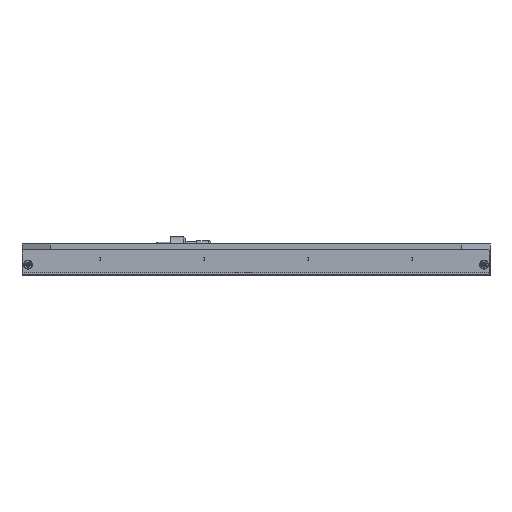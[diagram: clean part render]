
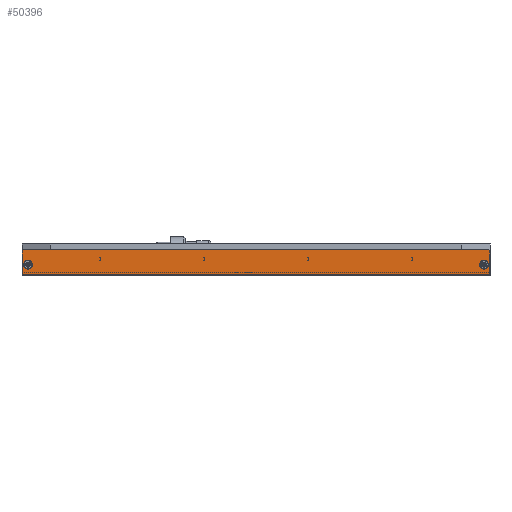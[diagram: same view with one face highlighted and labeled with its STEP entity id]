
A CAD part, front view. The second image highlights one B-rep face of the part: STEP entity #50396.
In plain terms, the highlighted planar face has unit normal (0, -1, 0).
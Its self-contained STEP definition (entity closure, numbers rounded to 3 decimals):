
#6141=DIRECTION('',(-1.,0.,0.));
#6142=VECTOR('',#6141,314.6);
#6143=CARTESIAN_POINT('',(157.3,-207.5,0.));
#6144=LINE('',#6143,#6142);
#17585=DIRECTION('',(0.,0.,-1.));
#17586=VECTOR('',#17585,16.8);
#17587=CARTESIAN_POINT('',(157.3,-207.5,0.));
#17588=LINE('',#17587,#17586);
#17589=CARTESIAN_POINT('',(-153.5,-207.5,-10.));
#17590=DIRECTION('',(0.,1.,0.));
#17591=DIRECTION('',(0.,0.,1.));
#17592=AXIS2_PLACEMENT_3D('',#17589,#17590,#17591);
#17594=CARTESIAN_POINT('',(-153.5,-207.5,-10.));
#17595=DIRECTION('',(0.,1.,0.));
#17596=DIRECTION('',(0.,0.,-1.));
#17597=AXIS2_PLACEMENT_3D('',#17594,#17595,#17596);
#17599=CARTESIAN_POINT('',(153.5,-207.5,-10.));
#17600=DIRECTION('',(0.,1.,0.));
#17601=DIRECTION('',(0.,0.,-1.));
#17602=AXIS2_PLACEMENT_3D('',#17599,#17600,#17601);
#17604=CARTESIAN_POINT('',(153.5,-207.5,-10.));
#17605=DIRECTION('',(0.,1.,0.));
#17606=DIRECTION('',(0.,0.,1.));
#17607=AXIS2_PLACEMENT_3D('',#17604,#17605,#17606);
#17609=DIRECTION('',(1.,0.,0.));
#17610=VECTOR('',#17609,314.6);
#17611=CARTESIAN_POINT('',(-157.3,-207.5,-16.8));
#17612=LINE('',#17611,#17610);
#17613=DIRECTION('',(0.,0.,-1.));
#17614=VECTOR('',#17613,16.8);
#17615=CARTESIAN_POINT('',(-157.3,-207.5,0.));
#17616=LINE('',#17615,#17614);
#20667=CARTESIAN_POINT('',(-157.3,-207.5,-16.8));
#20668=VERTEX_POINT('',#20667);
#20675=CARTESIAN_POINT('',(157.3,-207.5,-16.8));
#20676=VERTEX_POINT('',#20675);
#20677=CARTESIAN_POINT('',(153.5,-207.5,-7.));
#20678=CARTESIAN_POINT('',(153.5,-207.5,-13.));
#20679=VERTEX_POINT('',#20677);
#20680=VERTEX_POINT('',#20678);
#20681=CARTESIAN_POINT('',(-153.5,-207.5,-13.));
#20682=CARTESIAN_POINT('',(-153.5,-207.5,-7.));
#20683=VERTEX_POINT('',#20681);
#20684=VERTEX_POINT('',#20682);
#23594=CARTESIAN_POINT('',(-157.3,-207.5,0.));
#23596=VERTEX_POINT('',#23594);
#23597=CARTESIAN_POINT('',(157.3,-207.5,0.));
#23598=VERTEX_POINT('',#23597);
#50372=CARTESIAN_POINT('',(-157.5,-207.5,-17.));
#50373=DIRECTION('',(0.,-1.,0.));
#50374=DIRECTION('',(0.,0.,1.));
#50375=AXIS2_PLACEMENT_3D('',#50372,#50373,#50374);
#50376=PLANE('',#50375);
#50377=ORIENTED_EDGE('',*,*,#50367,.T.);
#50378=ORIENTED_EDGE('',*,*,#50337,.F.);
#50380=ORIENTED_EDGE('',*,*,#50379,.F.);
#50381=ORIENTED_EDGE('',*,*,#33126,.F.);
#50382=EDGE_LOOP('',(#50377,#50378,#50380,#50381));
#50383=FACE_OUTER_BOUND('',#50382,.F.);
#50385=ORIENTED_EDGE('',*,*,#50384,.F.);
#50387=ORIENTED_EDGE('',*,*,#50386,.F.);
#50388=EDGE_LOOP('',(#50385,#50387));
#50389=FACE_BOUND('',#50388,.F.);
#50391=ORIENTED_EDGE('',*,*,#50390,.F.);
#50393=ORIENTED_EDGE('',*,*,#50392,.F.);
#50394=EDGE_LOOP('',(#50391,#50393));
#50395=FACE_BOUND('',#50394,.F.);
#50396=ADVANCED_FACE('',(#50383,#50389,#50395),#50376,.T.);
#17593=CIRCLE('',#17592,3.);
#17598=CIRCLE('',#17597,3.);
#17603=CIRCLE('',#17602,3.);
#17608=CIRCLE('',#17607,3.);
#33126=EDGE_CURVE('',#23598,#23596,#6144,.T.);
#50337=EDGE_CURVE('',#20668,#20676,#17612,.T.);
#50367=EDGE_CURVE('',#23598,#20676,#17588,.T.);
#50379=EDGE_CURVE('',#23596,#20668,#17616,.T.);
#50384=EDGE_CURVE('',#20680,#20679,#17603,.T.);
#50386=EDGE_CURVE('',#20679,#20680,#17608,.T.);
#50390=EDGE_CURVE('',#20684,#20683,#17593,.T.);
#50392=EDGE_CURVE('',#20683,#20684,#17598,.T.);
